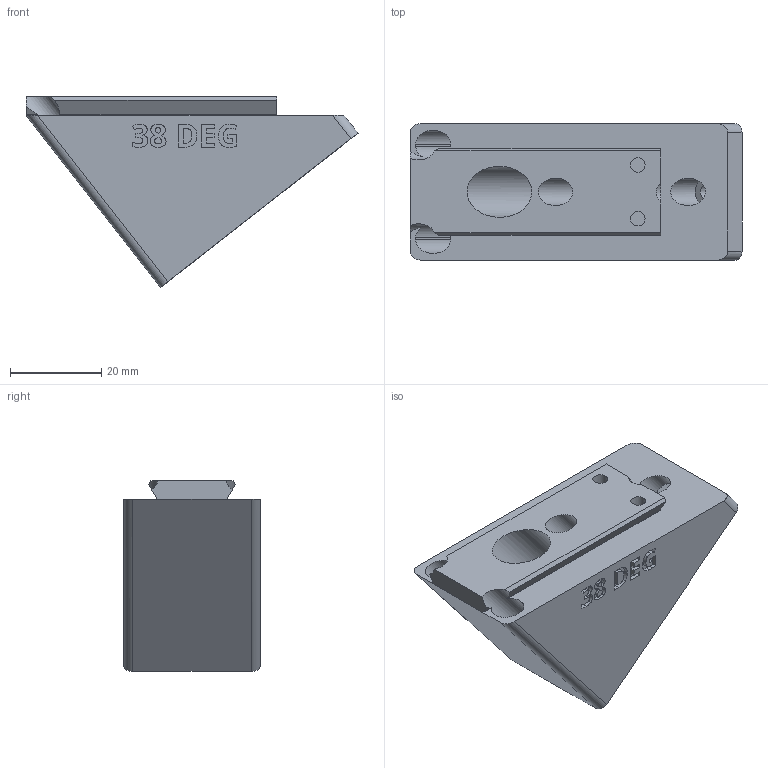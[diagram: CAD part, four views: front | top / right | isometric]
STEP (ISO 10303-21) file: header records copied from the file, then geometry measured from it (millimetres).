
FILE_DESCRIPTION(/* description */ ('STEP AP242 Edition 2','CAx-IF Rec.Pracs.---Representation and Presentation of Product Manufacturing Information (PMI)---4.0---2014-10-13','CAx-IF Rec.Pracs.---3D Tessellated Geometry---0.4---2014-09-14','2;1','CAx-IF Rec.Pracs.---User Defined Attributes---1.5---2016-08-15'),/* implementation_level */ '2;1');
FILE_NAME(/* name */ 'Camera Wedges - CAMERA MOUNTING WEDGE, POS, 38 DEG',/* time_stamp */ '2026-07-08T20:40:06Z',/* author */ (''),/* organization */ (''),/* preprocessor_version */ 'ST-DEVELOPER v20',/* originating_system */ 'ONSHAPE BY PTC INC, 1.217',/* authorisation */ ' ');
FILE_SCHEMA (('AP242_MANAGED_MODEL_BASED_3D_ENGINEERING_MIM_LF { 1 0 10303 442 3 1 4 }'));
Length unit declared in the file: metre
Products named in the file (1): CAMERA MOUNTING WEDGE, POS, 38 DEG
Bounding box: 72.87 x 30 x 41.9 mm (x, y, z)
Volume: 39275.9 mm3; surface area: 12910.8 mm2
Topology: 1 solids, 1 shells, 294 faces, 811 edges, 541 vertices
Faces by surface type: plane 125, bspline 114, cylinder 55
Full cylindrical faces by diameter (mm): 3.2 x4, 6 x2, 6.4 x1, 11.2 x1
Entity records: 9716 total; most frequent: CARTESIAN_POINT 2887, ORIENTED_EDGE 1600, DIRECTION 1056, EDGE_CURVE 800, VERTEX_POINT 538, LINE 450, VECTOR 450, EDGE_LOOP 334
